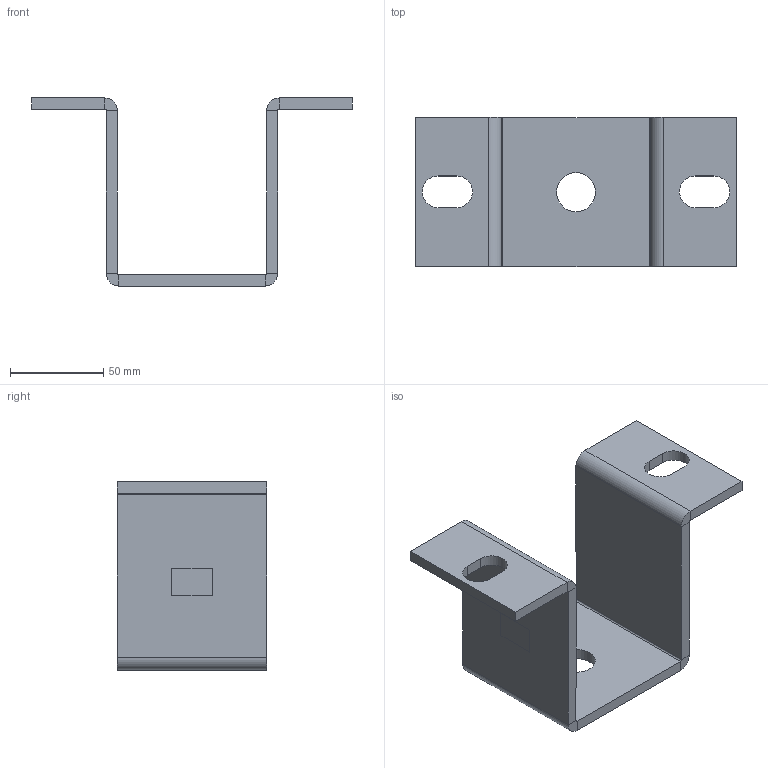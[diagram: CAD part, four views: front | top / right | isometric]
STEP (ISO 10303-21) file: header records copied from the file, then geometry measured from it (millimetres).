
FILE_DESCRIPTION(/* description */ ('Deckenkonsole Nr. 3, 1-fach'),/* implementation_level */ '2;1');
FILE_NAME(/* name */ 'Q:\sge-ma\Produktmanagement-STB\STB\Workspace\TraceParts\Deckenkonsole\010335831.stp',/* time_stamp */ '2018-02-20T13:45:18+01:00',/* author */ ('avschreier'),/* organization */ (''),/* preprocessor_version */ 'ST-DEVELOPER v16.1',/* originating_system */ 'Autodesk Inventor 2016',/* authorisation */ '');
FILE_SCHEMA (('CONFIG_CONTROL_DESIGN'));
Length unit declared in the file: millimetre
Products named in the file (1): 010335831
Bounding box: 172 x 80 x 101 mm (x, y, z)
Volume: 163783.4 mm3; surface area: 61098.7 mm2
Topology: 1 solids, 1 shells, 52 faces, 115 edges, 66 vertices
Faces by surface type: plane 39, cylinder 13
Full cylindrical faces by diameter (mm): 21 x1
Entity records: 1432 total; most frequent: DIRECTION 246, CARTESIAN_POINT 233, ORIENTED_EDGE 228, EDGE_CURVE 114, LINE 88, VECTOR 88, AXIS2_PLACEMENT_3D 79, VERTEX_POINT 66
